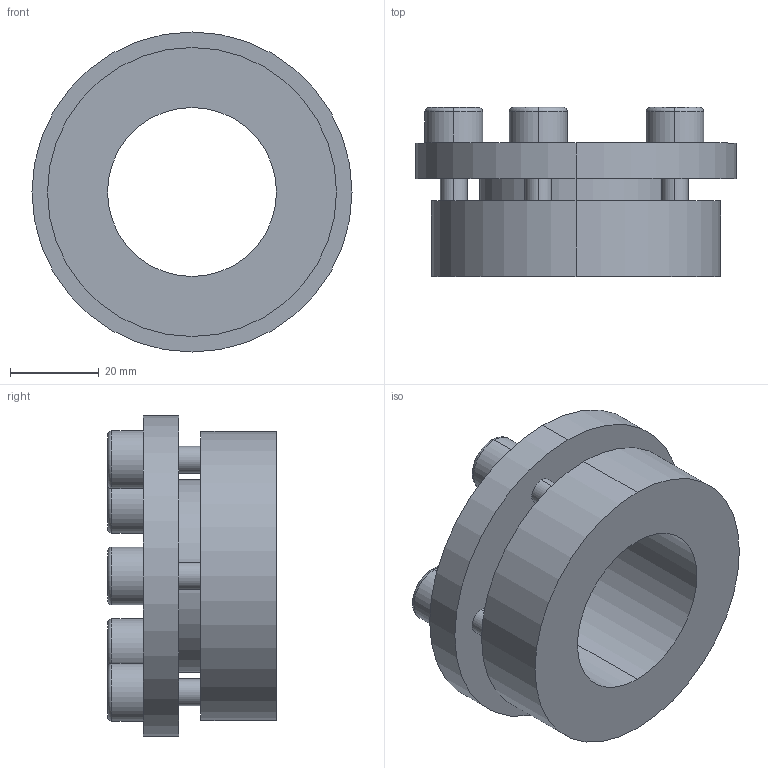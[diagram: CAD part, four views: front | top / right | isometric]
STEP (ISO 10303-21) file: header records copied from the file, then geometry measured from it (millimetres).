
FILE_DESCRIPTION (( 'STEP AP203' ), '1' );
FILE_NAME ('PL-H4 38-65.STEP', '2021-10-23T01:20:11', ( '' ), ( '' ), 'SwSTEP 2.0', 'SolidWorks 2018', '' );
FILE_SCHEMA (( 'CONFIG_CONTROL_DESIGN' ));
Length unit declared in the file: millimetre
Products named in the file (1): PL-H4 38-65
Bounding box: 72 x 38 x 72 mm (x, y, z)
Volume: 67706.8 mm3; surface area: 21244.8 mm2
Topology: 1 solids, 1 shells, 82 faces, 194 edges, 126 vertices
Faces by surface type: plane 44, cylinder 28, torus 10
Entity records: 2475 total; most frequent: DIRECTION 436, CARTESIAN_POINT 403, ORIENTED_EDGE 388, EDGE_CURVE 194, AXIS2_PLACEMENT_3D 159, VERTEX_POINT 126, LINE 118, VECTOR 118
